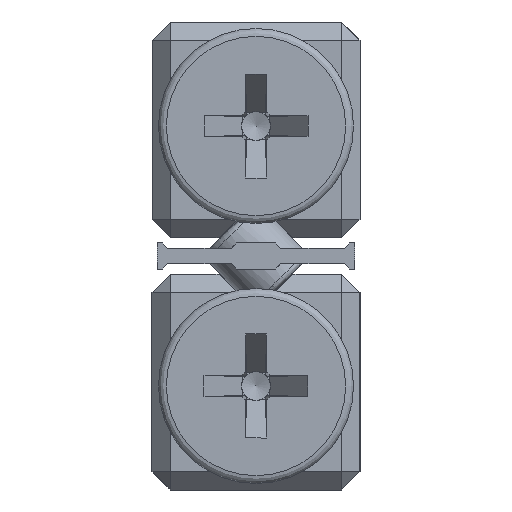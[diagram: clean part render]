
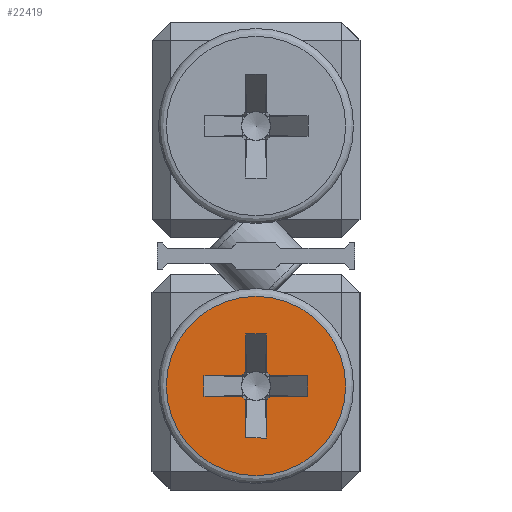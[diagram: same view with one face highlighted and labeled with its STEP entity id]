
A CAD part, left-side view. The second image highlights one B-rep face of the part: STEP entity #22419.
In plain terms, the highlighted planar face has unit normal (-1, 0, 0).
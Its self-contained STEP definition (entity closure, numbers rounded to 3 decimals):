
#111 = VECTOR ( 'NONE', #10082, 1000. ) ;
#169 = VECTOR ( 'NONE', #20622, 1000. ) ;
#608 = EDGE_CURVE ( 'NONE', #13136, #14247, #19942, .T. ) ;
#795 = DIRECTION ( 'NONE',  ( 0., 0., -1. ) ) ;
#917 = EDGE_CURVE ( 'NONE', #13136, #24131, #13026, .T. ) ;
#1427 = EDGE_CURVE ( 'NONE', #18026, #7463, #19181, .T. ) ;
#1570 = EDGE_LOOP ( 'NONE', ( #22254, #8304, #2312, #20555, #6556, #19230, #8920, #17416, #22840, #2334, #1605, #16843, #23081, #7676, #3788, #17442 ) ) ;
#1605 = ORIENTED_EDGE ( 'NONE', *, *, #11832, .F. ) ;
#1722 = VERTEX_POINT ( 'NONE', #14694 ) ;
#1780 = CARTESIAN_POINT ( 'NONE',  ( -89.5, 0.548, 3.6 ) ) ;
#2312 = ORIENTED_EDGE ( 'NONE', *, *, #1427, .F. ) ;
#2334 = ORIENTED_EDGE ( 'NONE', *, *, #8652, .T. ) ;
#2891 = AXIS2_PLACEMENT_3D ( 'NONE', #23639, #24009, #10612 ) ;
#2906 = VERTEX_POINT ( 'NONE', #22836 ) ;
#3100 = DIRECTION ( 'NONE',  ( -1., 0., 0. ) ) ;
#3104 = FACE_OUTER_BOUND ( 'NONE', #11008, .T. ) ;
#3233 = DIRECTION ( 'NONE',  ( -1., 0., 0. ) ) ;
#3244 = DIRECTION ( 'NONE',  ( 0., 0., 1. ) ) ;
#3333 = CARTESIAN_POINT ( 'NONE',  ( -89.5, 2., 4.4 ) ) ;
#3403 = AXIS2_PLACEMENT_3D ( 'NONE', #12196, #19989, #16019 ) ;
#3424 = AXIS2_PLACEMENT_3D ( 'NONE', #20244, #3233, #20362 ) ;
#3567 = CIRCLE ( 'NONE', #5947, 0.678 ) ;
#3788 = ORIENTED_EDGE ( 'NONE', *, *, #18034, .F. ) ;
#4023 = CARTESIAN_POINT ( 'NONE',  ( -89.5, 2., 4.4 ) ) ;
#4355 = LINE ( 'NONE', #11919, #15302 ) ;
#4384 = LINE ( 'NONE', #23233, #111 ) ;
#4618 = AXIS2_PLACEMENT_3D ( 'NONE', #5331, #7320, #22217 ) ;
#4693 = CARTESIAN_POINT ( 'NONE',  ( -89.5, 0.4, 6. ) ) ;
#4775 = VERTEX_POINT ( 'NONE', #1780 ) ;
#4880 = EDGE_CURVE ( 'NONE', #18405, #14247, #8124, .T. ) ;
#5018 = CARTESIAN_POINT ( 'NONE',  ( -89.5, -0.4, 6. ) ) ;
#5179 = ORIENTED_EDGE ( 'NONE', *, *, #22623, .T. ) ;
#5331 = CARTESIAN_POINT ( 'NONE',  ( -89.5, 0., 4. ) ) ;
#5584 = EDGE_CURVE ( 'NONE', #4775, #1722, #4355, .T. ) ;
#5753 = LINE ( 'NONE', #4023, #12183 ) ;
#5868 = VERTEX_POINT ( 'NONE', #12914 ) ;
#5947 = AXIS2_PLACEMENT_3D ( 'NONE', #14403, #3100, #16145 ) ;
#6117 = VECTOR ( 'NONE', #18799, 1000. ) ;
#6202 = CIRCLE ( 'NONE', #3424, 3.45 ) ;
#6370 = CARTESIAN_POINT ( 'NONE',  ( -89.5, -0.548, 3.6 ) ) ;
#6546 = VECTOR ( 'NONE', #22463, 1000. ) ;
#6556 = ORIENTED_EDGE ( 'NONE', *, *, #22959, .F. ) ;
#6981 = FACE_BOUND ( 'NONE', #1570, .T. ) ;
#7320 = DIRECTION ( 'NONE',  ( -1., 0., 0. ) ) ;
#7408 = EDGE_CURVE ( 'NONE', #7418, #14660, #3567, .T. ) ;
#7418 = VERTEX_POINT ( 'NONE', #8711 ) ;
#7463 = VERTEX_POINT ( 'NONE', #18017 ) ;
#7676 = ORIENTED_EDGE ( 'NONE', *, *, #917, .T. ) ;
#8124 = LINE ( 'NONE', #21157, #14944 ) ;
#8304 = ORIENTED_EDGE ( 'NONE', *, *, #20893, .T. ) ;
#8652 = EDGE_CURVE ( 'NONE', #7418, #11345, #17136, .T. ) ;
#8704 = CARTESIAN_POINT ( 'NONE',  ( -89.5, 0., 0.55 ) ) ;
#8711 = CARTESIAN_POINT ( 'NONE',  ( -89.5, 0.4, 4.548 ) ) ;
#8920 = ORIENTED_EDGE ( 'NONE', *, *, #23692, .F. ) ;
#9065 = DIRECTION ( 'NONE',  ( 0., 0., 1. ) ) ;
#9179 = CARTESIAN_POINT ( 'NONE',  ( -89.5, 0., 4. ) ) ;
#9991 = DIRECTION ( 'NONE',  ( 0., 0., -1. ) ) ;
#10082 = DIRECTION ( 'NONE',  ( 0., -1., 0. ) ) ;
#10612 = DIRECTION ( 'NONE',  ( 0., 0., 1. ) ) ;
#11008 = EDGE_LOOP ( 'NONE', ( #5179 ) ) ;
#11044 = VERTEX_POINT ( 'NONE', #21963 ) ;
#11091 = VECTOR ( 'NONE', #18867, 1000. ) ;
#11313 = CARTESIAN_POINT ( 'NONE',  ( -89.5, 0.4, 2. ) ) ;
#11345 = VERTEX_POINT ( 'NONE', #4693 ) ;
#11832 = EDGE_CURVE ( 'NONE', #18405, #11345, #18666, .T. ) ;
#11919 = CARTESIAN_POINT ( 'NONE',  ( -89.5, -2., 3.6 ) ) ;
#12183 = VECTOR ( 'NONE', #15887, 1000. ) ;
#12196 = CARTESIAN_POINT ( 'NONE',  ( -89.5, 3.75, 4. ) ) ;
#12218 = LINE ( 'NONE', #5018, #17165 ) ;
#12248 = EDGE_CURVE ( 'NONE', #18026, #5868, #22826, .T. ) ;
#12914 = CARTESIAN_POINT ( 'NONE',  ( -89.5, 0.4, 3.452 ) ) ;
#13026 = LINE ( 'NONE', #3333, #6546 ) ;
#13136 = VERTEX_POINT ( 'NONE', #21967 ) ;
#13478 = DIRECTION ( 'NONE',  ( 0., -1., 0. ) ) ;
#13623 = CIRCLE ( 'NONE', #17982, 0.678 ) ;
#13651 = DIRECTION ( 'NONE',  ( 0., 1., 0. ) ) ;
#13768 = VECTOR ( 'NONE', #18432, 1000. ) ;
#14247 = VERTEX_POINT ( 'NONE', #23131 ) ;
#14403 = CARTESIAN_POINT ( 'NONE',  ( -89.5, 0., 4. ) ) ;
#14660 = VERTEX_POINT ( 'NONE', #16340 ) ;
#14694 = CARTESIAN_POINT ( 'NONE',  ( -89.5, 2., 3.6 ) ) ;
#14944 = VECTOR ( 'NONE', #9991, 1000. ) ;
#15302 = VECTOR ( 'NONE', #13651, 1000. ) ;
#15308 = CIRCLE ( 'NONE', #4618, 0.678 ) ;
#15887 = DIRECTION ( 'NONE',  ( 0., 0., -1. ) ) ;
#16019 = DIRECTION ( 'NONE',  ( 0., 0., -1. ) ) ;
#16145 = DIRECTION ( 'NONE',  ( 0., 0., 1. ) ) ;
#16255 = VERTEX_POINT ( 'NONE', #8704 ) ;
#16265 = PLANE ( 'NONE',  #3403 ) ;
#16340 = CARTESIAN_POINT ( 'NONE',  ( -89.5, 0.548, 4.4 ) ) ;
#16655 = VERTEX_POINT ( 'NONE', #6370 ) ;
#16843 = ORIENTED_EDGE ( 'NONE', *, *, #4880, .T. ) ;
#16876 = DIRECTION ( 'NONE',  ( -1., 0., 0. ) ) ;
#17136 = LINE ( 'NONE', #11313, #11091 ) ;
#17165 = VECTOR ( 'NONE', #795, 1000. ) ;
#17416 = ORIENTED_EDGE ( 'NONE', *, *, #21096, .T. ) ;
#17442 = ORIENTED_EDGE ( 'NONE', *, *, #20614, .T. ) ;
#17982 = AXIS2_PLACEMENT_3D ( 'NONE', #9179, #16876, #9065 ) ;
#18017 = CARTESIAN_POINT ( 'NONE',  ( -89.5, -0.4, 2. ) ) ;
#18026 = VERTEX_POINT ( 'NONE', #22620 ) ;
#18034 = EDGE_CURVE ( 'NONE', #11044, #24131, #20862, .T. ) ;
#18405 = VERTEX_POINT ( 'NONE', #19461 ) ;
#18432 = DIRECTION ( 'NONE',  ( 0., 1., 0. ) ) ;
#18666 = LINE ( 'NONE', #20525, #13768 ) ;
#18799 = DIRECTION ( 'NONE',  ( 0., 1., 0. ) ) ;
#18867 = DIRECTION ( 'NONE',  ( 0., 0., 1. ) ) ;
#18924 = CARTESIAN_POINT ( 'NONE',  ( -89.5, -2., 3.6 ) ) ;
#19181 = LINE ( 'NONE', #24532, #20145 ) ;
#19230 = ORIENTED_EDGE ( 'NONE', *, *, #5584, .T. ) ;
#19445 = EDGE_CURVE ( 'NONE', #2906, #16655, #13623, .T. ) ;
#19461 = CARTESIAN_POINT ( 'NONE',  ( -89.5, -0.4, 6. ) ) ;
#19926 = CARTESIAN_POINT ( 'NONE',  ( -89.5, 2., 4.4 ) ) ;
#19942 = CIRCLE ( 'NONE', #2891, 0.678 ) ;
#19989 = DIRECTION ( 'NONE',  ( 1., 0., 0. ) ) ;
#20145 = VECTOR ( 'NONE', #13478, 1000. ) ;
#20244 = CARTESIAN_POINT ( 'NONE',  ( -89.5, 0., 4. ) ) ;
#20362 = DIRECTION ( 'NONE',  ( 0., 0., -1. ) ) ;
#20525 = CARTESIAN_POINT ( 'NONE',  ( -89.5, -0.4, 6. ) ) ;
#20555 = ORIENTED_EDGE ( 'NONE', *, *, #12248, .T. ) ;
#20614 = EDGE_CURVE ( 'NONE', #11044, #16655, #24155, .T. ) ;
#20622 = DIRECTION ( 'NONE',  ( 0., 0., 1. ) ) ;
#20862 = LINE ( 'NONE', #22500, #169 ) ;
#20893 = EDGE_CURVE ( 'NONE', #2906, #7463, #12218, .T. ) ;
#21096 = EDGE_CURVE ( 'NONE', #23243, #14660, #4384, .T. ) ;
#21157 = CARTESIAN_POINT ( 'NONE',  ( -89.5, -0.4, 6. ) ) ;
#21963 = CARTESIAN_POINT ( 'NONE',  ( -89.5, -2., 3.6 ) ) ;
#21967 = CARTESIAN_POINT ( 'NONE',  ( -89.5, -0.548, 4.4 ) ) ;
#22217 = DIRECTION ( 'NONE',  ( 0., 0., 1. ) ) ;
#22254 = ORIENTED_EDGE ( 'NONE', *, *, #19445, .F. ) ;
#22419 = ADVANCED_FACE ( 'NONE', ( #3104, #6981 ), #16265, .F. ) ;
#22463 = DIRECTION ( 'NONE',  ( 0., -1., 0. ) ) ;
#22500 = CARTESIAN_POINT ( 'NONE',  ( -89.5, -2., 3.6 ) ) ;
#22620 = CARTESIAN_POINT ( 'NONE',  ( -89.5, 0.4, 2. ) ) ;
#22623 = EDGE_CURVE ( 'NONE', #16255, #16255, #6202, .T. ) ;
#22826 = LINE ( 'NONE', #22951, #22896 ) ;
#22836 = CARTESIAN_POINT ( 'NONE',  ( -89.5, -0.4, 3.452 ) ) ;
#22840 = ORIENTED_EDGE ( 'NONE', *, *, #7408, .F. ) ;
#22896 = VECTOR ( 'NONE', #3244, 1000. ) ;
#22951 = CARTESIAN_POINT ( 'NONE',  ( -89.5, 0.4, 2. ) ) ;
#22959 = EDGE_CURVE ( 'NONE', #4775, #5868, #15308, .T. ) ;
#23081 = ORIENTED_EDGE ( 'NONE', *, *, #608, .F. ) ;
#23131 = CARTESIAN_POINT ( 'NONE',  ( -89.5, -0.4, 4.548 ) ) ;
#23233 = CARTESIAN_POINT ( 'NONE',  ( -89.5, 2., 4.4 ) ) ;
#23243 = VERTEX_POINT ( 'NONE', #19926 ) ;
#23639 = CARTESIAN_POINT ( 'NONE',  ( -89.5, 0., 4. ) ) ;
#23692 = EDGE_CURVE ( 'NONE', #23243, #1722, #5753, .T. ) ;
#23932 = CARTESIAN_POINT ( 'NONE',  ( -89.5, -2., 4.4 ) ) ;
#24009 = DIRECTION ( 'NONE',  ( -1., 0., 0. ) ) ;
#24131 = VERTEX_POINT ( 'NONE', #23932 ) ;
#24155 = LINE ( 'NONE', #18924, #6117 ) ;
#24532 = CARTESIAN_POINT ( 'NONE',  ( -89.5, 0.4, 2. ) ) ;
